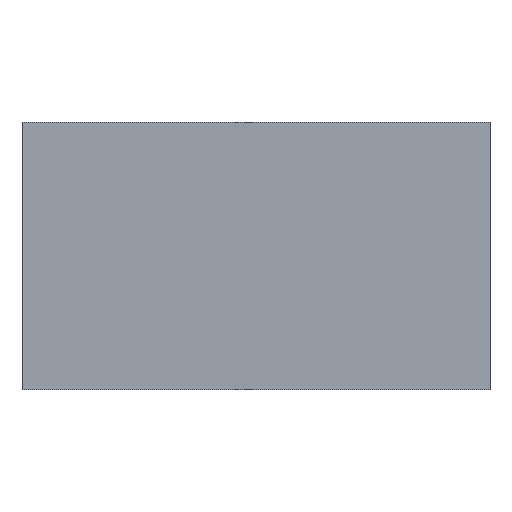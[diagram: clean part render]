
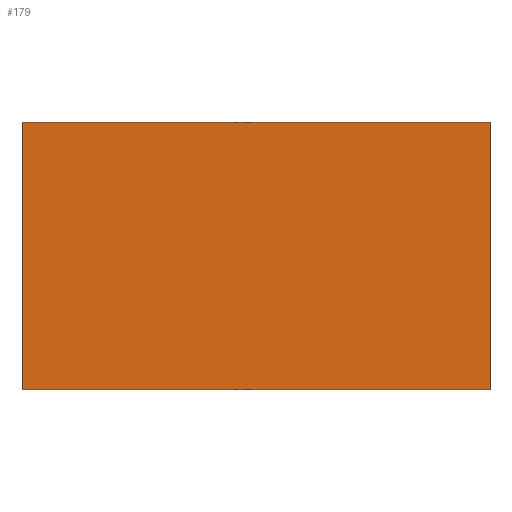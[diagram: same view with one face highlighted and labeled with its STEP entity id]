
A CAD part, top view. The second image highlights one B-rep face of the part: STEP entity #179.
In plain terms, the highlighted planar face has unit normal (0, 0, -1).
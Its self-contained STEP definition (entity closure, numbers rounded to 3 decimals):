
#108=CARTESIAN_POINT('',(0.,0.,1.6));
#109=VERTEX_POINT('',#108);
#110=CARTESIAN_POINT('',(70.,0.,1.6));
#111=VERTEX_POINT('',#110);
#112=CARTESIAN_POINT('',(70.,40.,1.6));
#113=VERTEX_POINT('',#112);
#114=CARTESIAN_POINT('',(0.,40.,1.6));
#115=VERTEX_POINT('',#114);
#148=DIRECTION('',(0.,1.,0.));
#149=VECTOR('',#148,40.);
#150=CARTESIAN_POINT('',(0.,0.,1.6));
#151=LINE('',#150,#149);
#152=EDGE_CURVE('',#109,#115,#151,.T.);
#153=ORIENTED_EDGE('',*,*,#152,.T.);
#154=DIRECTION('',(1.,0.,0.));
#155=VECTOR('',#154,70.);
#156=CARTESIAN_POINT('',(0.,40.,1.6));
#157=LINE('',#156,#155);
#158=EDGE_CURVE('',#115,#113,#157,.T.);
#159=ORIENTED_EDGE('',*,*,#158,.T.);
#160=DIRECTION('',(0.,-1.,0.));
#161=VECTOR('',#160,40.);
#162=CARTESIAN_POINT('',(70.,40.,1.6));
#163=LINE('',#162,#161);
#164=EDGE_CURVE('',#113,#111,#163,.T.);
#165=ORIENTED_EDGE('',*,*,#164,.T.);
#166=DIRECTION('',(-1.,0.,0.));
#167=VECTOR('',#166,70.);
#168=CARTESIAN_POINT('',(70.,0.,1.6));
#169=LINE('',#168,#167);
#170=EDGE_CURVE('',#111,#109,#169,.T.);
#171=ORIENTED_EDGE('',*,*,#170,.T.);
#172=EDGE_LOOP('',(#153,#159,#165,#171));
#173=FACE_OUTER_BOUND('',#172,.T.);
#174=CARTESIAN_POINT('',(0.,0.,1.6));
#175=DIRECTION('',(0.,0.,-1.));
#176=DIRECTION('',(1.,0.,0.));
#177=AXIS2_PLACEMENT_3D('',#174,#175,#176);
#178=PLANE('',#177);
#179=ADVANCED_FACE('', (#173), #178, .T.);
